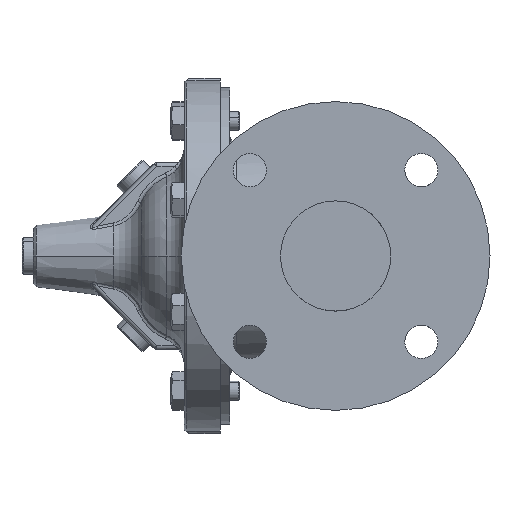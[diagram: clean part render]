
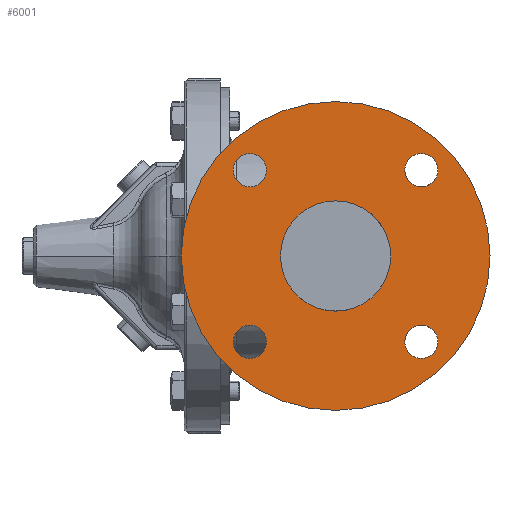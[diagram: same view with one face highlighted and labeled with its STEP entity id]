
A CAD part, left-side view. The second image highlights one B-rep face of the part: STEP entity #6001.
In plain terms, the highlighted planar face has unit normal (-1, 0, 0).
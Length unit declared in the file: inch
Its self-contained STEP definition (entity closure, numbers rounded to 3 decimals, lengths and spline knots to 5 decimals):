
#125 = ORIENTED_EDGE ( 'NONE', *, *, #14777, .F. ) ;
#365 = CIRCLE ( 'NONE', #12133, 0.375 ) ;
#638 = CARTESIAN_POINT ( 'NONE',  ( -5.5, 0., 0. ) ) ;
#652 = CARTESIAN_POINT ( 'NONE',  ( -5.5, -1.94454, 1.94454 ) ) ;
#677 = CARTESIAN_POINT ( 'NONE',  ( -5.5, -1.94454, 2.31954 ) ) ;
#774 = AXIS2_PLACEMENT_3D ( 'NONE', #8661, #20722, #10401 ) ;
#897 = DIRECTION ( 'NONE',  ( -1., 0., 0. ) ) ;
#909 = CIRCLE ( 'NONE', #7237, 0.375 ) ;
#1038 = FACE_BOUND ( 'NONE', #19266, .T. ) ;
#1265 = DIRECTION ( 'NONE',  ( -1., 0., 0. ) ) ;
#1493 = DIRECTION ( 'NONE',  ( -1., 0., 0. ) ) ;
#1495 = DIRECTION ( 'NONE',  ( 0., 0., 1. ) ) ;
#1971 = ORIENTED_EDGE ( 'NONE', *, *, #7520, .F. ) ;
#2364 = DIRECTION ( 'NONE',  ( 0., 1., 0. ) ) ;
#2376 = DIRECTION ( 'NONE',  ( 0., 0., -1. ) ) ;
#2399 = DIRECTION ( 'NONE',  ( 1., 0., 0. ) ) ;
#2844 = EDGE_LOOP ( 'NONE', ( #8641, #3353 ) ) ;
#2994 = VERTEX_POINT ( 'NONE', #6181 ) ;
#3353 = ORIENTED_EDGE ( 'NONE', *, *, #15932, .F. ) ;
#3424 = CARTESIAN_POINT ( 'NONE',  ( -5.5, 1.94454, -2.31954 ) ) ;
#4423 = VERTEX_POINT ( 'NONE', #10802 ) ;
#4555 = FACE_BOUND ( 'NONE', #17572, .T. ) ;
#4886 = EDGE_CURVE ( 'NONE', #8176, #10163, #12843, .T. ) ;
#5030 = CARTESIAN_POINT ( 'NONE',  ( -5.5, -1.94454, -1.94454 ) ) ;
#5622 = FACE_BOUND ( 'NONE', #10494, .T. ) ;
#5804 = EDGE_CURVE ( 'NONE', #11885, #7547, #6708, .T. ) ;
#5831 = AXIS2_PLACEMENT_3D ( 'NONE', #6304, #18370, #8052 ) ;
#5849 = EDGE_LOOP ( 'NONE', ( #19029, #7979 ) ) ;
#6001 = ADVANCED_FACE ( 'NONE', ( #5622, #1038, #13742, #9160, #4555, #18330 ), #18716, .T. ) ;
#6042 = AXIS2_PLACEMENT_3D ( 'NONE', #638, #12761, #2364 ) ;
#6181 = CARTESIAN_POINT ( 'NONE',  ( -5.5, 1.94454, -1.56954 ) ) ;
#6304 = CARTESIAN_POINT ( 'NONE',  ( -5.5, 0., 0. ) ) ;
#6708 = CIRCLE ( 'NONE', #5831, 1.25 ) ;
#6741 = CIRCLE ( 'NONE', #13386, 0.375 ) ;
#6773 = DIRECTION ( 'NONE',  ( 0., 1., 0. ) ) ;
#7084 = VERTEX_POINT ( 'NONE', #20720 ) ;
#7237 = AXIS2_PLACEMENT_3D ( 'NONE', #11287, #897, #13041 ) ;
#7431 = CARTESIAN_POINT ( 'NONE',  ( -5.5, 1.94454, 1.94454 ) ) ;
#7520 = EDGE_CURVE ( 'NONE', #2994, #18095, #9952, .T. ) ;
#7526 = CIRCLE ( 'NONE', #774, 3.5 ) ;
#7547 = VERTEX_POINT ( 'NONE', #13836 ) ;
#7645 = AXIS2_PLACEMENT_3D ( 'NONE', #9953, #22006, #11688 ) ;
#7979 = ORIENTED_EDGE ( 'NONE', *, *, #13706, .F. ) ;
#8052 = DIRECTION ( 'NONE',  ( 0., 1., 0. ) ) ;
#8113 = VERTEX_POINT ( 'NONE', #677 ) ;
#8176 = VERTEX_POINT ( 'NONE', #11281 ) ;
#8247 = EDGE_LOOP ( 'NONE', ( #18421, #125 ) ) ;
#8286 = AXIS2_PLACEMENT_3D ( 'NONE', #652, #12772, #2376 ) ;
#8641 = ORIENTED_EDGE ( 'NONE', *, *, #11851, .F. ) ;
#8661 = CARTESIAN_POINT ( 'NONE',  ( -5.5, 0., 0. ) ) ;
#9160 = FACE_BOUND ( 'NONE', #5849, .T. ) ;
#9190 = DIRECTION ( 'NONE',  ( 0., -1., 0. ) ) ;
#9506 = CARTESIAN_POINT ( 'NONE',  ( -5.5, -1.25, 0. ) ) ;
#9836 = DIRECTION ( 'NONE',  ( -1., 0., 0. ) ) ;
#9952 = CIRCLE ( 'NONE', #18695, 0.375 ) ;
#9953 = CARTESIAN_POINT ( 'NONE',  ( -5.5, -1.94454, 1.94454 ) ) ;
#10093 = CIRCLE ( 'NONE', #8286, 0.375 ) ;
#10163 = VERTEX_POINT ( 'NONE', #10806 ) ;
#10401 = DIRECTION ( 'NONE',  ( 0., 1., 0. ) ) ;
#10494 = EDGE_LOOP ( 'NONE', ( #1971, #19725 ) ) ;
#10802 = CARTESIAN_POINT ( 'NONE',  ( -5.5, 1.56954, 1.94454 ) ) ;
#10806 = CARTESIAN_POINT ( 'NONE',  ( -5.5, -2.31954, -1.94454 ) ) ;
#11232 = ORIENTED_EDGE ( 'NONE', *, *, #18334, .T. ) ;
#11280 = CARTESIAN_POINT ( 'NONE',  ( -5.5, -1.94454, 1.56954 ) ) ;
#11281 = CARTESIAN_POINT ( 'NONE',  ( -5.5, -1.56954, -1.94454 ) ) ;
#11287 = CARTESIAN_POINT ( 'NONE',  ( -5.5, 1.94454, 1.94454 ) ) ;
#11328 = EDGE_CURVE ( 'NONE', #18095, #2994, #16628, .T. ) ;
#11554 = ORIENTED_EDGE ( 'NONE', *, *, #4886, .F. ) ;
#11559 = AXIS2_PLACEMENT_3D ( 'NONE', #20161, #9836, #21898 ) ;
#11574 = EDGE_CURVE ( 'NONE', #8113, #15731, #19020, .T. ) ;
#11660 = CARTESIAN_POINT ( 'NONE',  ( -5.5, -1.94454, -1.94454 ) ) ;
#11688 = DIRECTION ( 'NONE',  ( 0., 0., -1. ) ) ;
#11851 = EDGE_CURVE ( 'NONE', #7084, #11969, #12057, .T. ) ;
#11884 = DIRECTION ( 'NONE',  ( -1., 0., 0. ) ) ;
#11885 = VERTEX_POINT ( 'NONE', #9506 ) ;
#11969 = VERTEX_POINT ( 'NONE', #18216 ) ;
#11996 = ORIENTED_EDGE ( 'NONE', *, *, #5804, .T. ) ;
#12057 = CIRCLE ( 'NONE', #6042, 3.5 ) ;
#12098 = CIRCLE ( 'NONE', #19096, 1.25 ) ;
#12133 = AXIS2_PLACEMENT_3D ( 'NONE', #7431, #19511, #9190 ) ;
#12260 = VERTEX_POINT ( 'NONE', #21281 ) ;
#12596 = EDGE_CURVE ( 'NONE', #4423, #12260, #365, .T. ) ;
#12761 = DIRECTION ( 'NONE',  ( 1., 0., 0. ) ) ;
#12772 = DIRECTION ( 'NONE',  ( -1., 0., 0. ) ) ;
#12795 = CARTESIAN_POINT ( 'NONE',  ( -5.5, 0., 0. ) ) ;
#12843 = CIRCLE ( 'NONE', #14529, 0.375 ) ;
#13041 = DIRECTION ( 'NONE',  ( 0., -1., 0. ) ) ;
#13386 = AXIS2_PLACEMENT_3D ( 'NONE', #5030, #17105, #6773 ) ;
#13397 = DIRECTION ( 'NONE',  ( 0., 1., 0. ) ) ;
#13612 = DIRECTION ( 'NONE',  ( 0., -1., 0. ) ) ;
#13706 = EDGE_CURVE ( 'NONE', #12260, #4423, #909, .T. ) ;
#13742 = FACE_BOUND ( 'NONE', #8247, .T. ) ;
#13836 = CARTESIAN_POINT ( 'NONE',  ( -5.5, 1.25, 0. ) ) ;
#14516 = DIRECTION ( 'NONE',  ( 0., 1., 0. ) ) ;
#14529 = AXIS2_PLACEMENT_3D ( 'NONE', #11660, #1265, #13397 ) ;
#14777 = EDGE_CURVE ( 'NONE', #15731, #8113, #10093, .T. ) ;
#15731 = VERTEX_POINT ( 'NONE', #11280 ) ;
#15932 = EDGE_CURVE ( 'NONE', #11969, #7084, #7526, .T. ) ;
#16628 = CIRCLE ( 'NONE', #11559, 0.375 ) ;
#17105 = DIRECTION ( 'NONE',  ( -1., 0., 0. ) ) ;
#17572 = EDGE_LOOP ( 'NONE', ( #11232, #11996 ) ) ;
#18095 = VERTEX_POINT ( 'NONE', #3424 ) ;
#18216 = CARTESIAN_POINT ( 'NONE',  ( -5.5, -3.5, 0. ) ) ;
#18330 = FACE_OUTER_BOUND ( 'NONE', #2844, .T. ) ;
#18334 = EDGE_CURVE ( 'NONE', #7547, #11885, #12098, .T. ) ;
#18370 = DIRECTION ( 'NONE',  ( 1., 0., 0. ) ) ;
#18421 = ORIENTED_EDGE ( 'NONE', *, *, #11574, .F. ) ;
#18695 = AXIS2_PLACEMENT_3D ( 'NONE', #22208, #11884, #1495 ) ;
#18716 = PLANE ( 'NONE',  #20861 ) ;
#19020 = CIRCLE ( 'NONE', #7645, 0.375 ) ;
#19029 = ORIENTED_EDGE ( 'NONE', *, *, #12596, .F. ) ;
#19096 = AXIS2_PLACEMENT_3D ( 'NONE', #12795, #2399, #14516 ) ;
#19266 = EDGE_LOOP ( 'NONE', ( #21368, #11554 ) ) ;
#19511 = DIRECTION ( 'NONE',  ( -1., 0., 0. ) ) ;
#19725 = ORIENTED_EDGE ( 'NONE', *, *, #11328, .F. ) ;
#20161 = CARTESIAN_POINT ( 'NONE',  ( -5.5, 1.94454, -1.94454 ) ) ;
#20720 = CARTESIAN_POINT ( 'NONE',  ( -5.5, 3.5, 0. ) ) ;
#20722 = DIRECTION ( 'NONE',  ( 1., 0., 0. ) ) ;
#20861 = AXIS2_PLACEMENT_3D ( 'NONE', #22207, #1493, #13612 ) ;
#20980 = EDGE_CURVE ( 'NONE', #10163, #8176, #6741, .T. ) ;
#21281 = CARTESIAN_POINT ( 'NONE',  ( -5.5, 2.31954, 1.94454 ) ) ;
#21368 = ORIENTED_EDGE ( 'NONE', *, *, #20980, .F. ) ;
#21898 = DIRECTION ( 'NONE',  ( 0., 0., 1. ) ) ;
#22006 = DIRECTION ( 'NONE',  ( -1., 0., 0. ) ) ;
#22207 = CARTESIAN_POINT ( 'NONE',  ( -5.5, 3.5, 0. ) ) ;
#22208 = CARTESIAN_POINT ( 'NONE',  ( -5.5, 1.94454, -1.94454 ) ) ;
